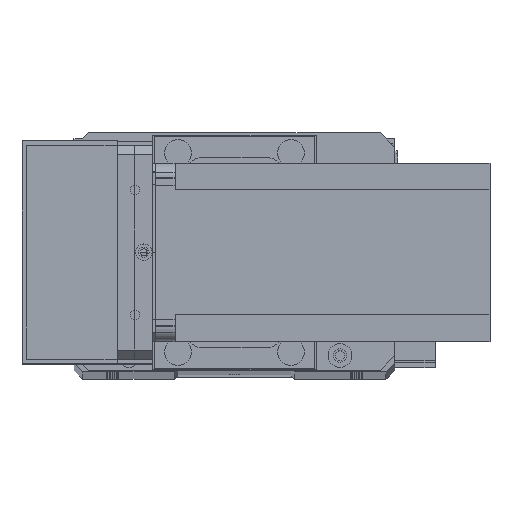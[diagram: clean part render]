
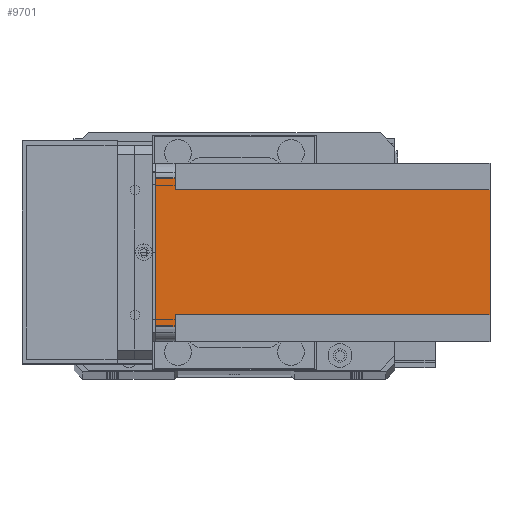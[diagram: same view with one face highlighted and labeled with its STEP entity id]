
A CAD part, top view. The second image highlights one B-rep face of the part: STEP entity #9701.
In plain terms, the highlighted planar face has unit normal (0, 0, 1) as drawn and (1, 0, 0) by its records, which use the part's own axes.
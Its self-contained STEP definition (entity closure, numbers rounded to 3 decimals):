
#236 = DIRECTION ( 'NONE',  ( 0., 0., 1. ) ) ;
#919 = CARTESIAN_POINT ( 'NONE',  ( 60., 0., -112.5 ) ) ;
#2249 = CARTESIAN_POINT ( 'NONE',  ( 60., 60., -6.5 ) ) ;
#2504 = LINE ( 'NONE', #27958, #21221 ) ;
#2930 = FACE_OUTER_BOUND ( 'NONE', #27570, .T. ) ;
#2946 = DIRECTION ( 'NONE',  ( 0., 1., 0. ) ) ;
#3958 = CARTESIAN_POINT ( 'NONE',  ( 60., 0., -6.5 ) ) ;
#4972 = DIRECTION ( 'NONE',  ( 0., 0., -1. ) ) ;
#5358 = VERTEX_POINT ( 'NONE', #17661 ) ;
#5878 = DIRECTION ( 'NONE',  ( 0., 1., 0. ) ) ;
#7004 = EDGE_CURVE ( 'NONE', #13825, #12074, #28877, .T. ) ;
#7236 = EDGE_CURVE ( 'NONE', #12074, #20830, #10768, .T. ) ;
#7821 = ORIENTED_EDGE ( 'NONE', *, *, #22625, .F. ) ;
#8525 = CARTESIAN_POINT ( 'NONE',  ( 60., 55., -6.5 ) ) ;
#8764 = VERTEX_POINT ( 'NONE', #28701 ) ;
#8949 = DIRECTION ( 'NONE',  ( 0., -1., 0. ) ) ;
#9074 = VECTOR ( 'NONE', #4972, 1000. ) ;
#9249 = ORIENTED_EDGE ( 'NONE', *, *, #7236, .F. ) ;
#9701 = ADVANCED_FACE ( 'NONE', ( #2930 ), #18056, .T. ) ;
#9705 = DIRECTION ( 'NONE',  ( 0., -1., 0. ) ) ;
#10183 = CARTESIAN_POINT ( 'NONE',  ( 60., 51., -112.5 ) ) ;
#10453 = EDGE_CURVE ( 'NONE', #13825, #27167, #2504, .T. ) ;
#10535 = AXIS2_PLACEMENT_3D ( 'NONE', #919, #20492, #5878 ) ;
#10691 = ORIENTED_EDGE ( 'NONE', *, *, #16643, .F. ) ;
#10768 = LINE ( 'NONE', #3958, #22879 ) ;
#10916 = CARTESIAN_POINT ( 'NONE',  ( 60., 9., -6.5 ) ) ;
#11164 = VECTOR ( 'NONE', #9705, 1000. ) ;
#11320 = ORIENTED_EDGE ( 'NONE', *, *, #20307, .F. ) ;
#12074 = VERTEX_POINT ( 'NONE', #10916 ) ;
#12466 = EDGE_CURVE ( 'NONE', #8764, #20830, #14800, .T. ) ;
#12782 = CARTESIAN_POINT ( 'NONE',  ( 60., 0., 0. ) ) ;
#12843 = CARTESIAN_POINT ( 'NONE',  ( 60., 9., -112.5 ) ) ;
#13232 = VECTOR ( 'NONE', #2946, 1000. ) ;
#13811 = VERTEX_POINT ( 'NONE', #8525 ) ;
#13825 = VERTEX_POINT ( 'NONE', #27832 ) ;
#14800 = LINE ( 'NONE', #21994, #9074 ) ;
#16643 = EDGE_CURVE ( 'NONE', #25213, #27167, #23634, .T. ) ;
#17224 = VECTOR ( 'NONE', #27036, 1000. ) ;
#17661 = CARTESIAN_POINT ( 'NONE',  ( 60., 55., 0. ) ) ;
#18056 = PLANE ( 'NONE',  #10535 ) ;
#18088 = VECTOR ( 'NONE', #236, 1000. ) ;
#20307 = EDGE_CURVE ( 'NONE', #8764, #5358, #27503, .T. ) ;
#20492 = DIRECTION ( 'NONE',  ( 1., 0., 0. ) ) ;
#20773 = EDGE_CURVE ( 'NONE', #13811, #5358, #30844, .T. ) ;
#20830 = VERTEX_POINT ( 'NONE', #24729 ) ;
#21221 = VECTOR ( 'NONE', #25545, 1000. ) ;
#21994 = CARTESIAN_POINT ( 'NONE',  ( 60., 5., -112.5 ) ) ;
#22234 = CARTESIAN_POINT ( 'NONE',  ( 60., 55., -112.5 ) ) ;
#22625 = EDGE_CURVE ( 'NONE', #13811, #25213, #31122, .T. ) ;
#22879 = VECTOR ( 'NONE', #8949, 1000. ) ;
#23634 = LINE ( 'NONE', #10183, #17224 ) ;
#24729 = CARTESIAN_POINT ( 'NONE',  ( 60., 5., -6.5 ) ) ;
#25213 = VERTEX_POINT ( 'NONE', #29170 ) ;
#25545 = DIRECTION ( 'NONE',  ( 0., 1., 0. ) ) ;
#25888 = ORIENTED_EDGE ( 'NONE', *, *, #10453, .T. ) ;
#26412 = ORIENTED_EDGE ( 'NONE', *, *, #20773, .T. ) ;
#27036 = DIRECTION ( 'NONE',  ( 0., 0., -1. ) ) ;
#27167 = VERTEX_POINT ( 'NONE', #27579 ) ;
#27503 = LINE ( 'NONE', #12782, #13232 ) ;
#27570 = EDGE_LOOP ( 'NONE', ( #7821, #26412, #11320, #30656, #9249, #28857, #25888, #10691 ) ) ;
#27579 = CARTESIAN_POINT ( 'NONE',  ( 60., 51., -112.5 ) ) ;
#27832 = CARTESIAN_POINT ( 'NONE',  ( 60., 9., -112.5 ) ) ;
#27958 = CARTESIAN_POINT ( 'NONE',  ( 60., 0., -112.5 ) ) ;
#28101 = VECTOR ( 'NONE', #29654, 1000. ) ;
#28701 = CARTESIAN_POINT ( 'NONE',  ( 60., 5., 0. ) ) ;
#28857 = ORIENTED_EDGE ( 'NONE', *, *, #7004, .F. ) ;
#28877 = LINE ( 'NONE', #12843, #28101 ) ;
#29170 = CARTESIAN_POINT ( 'NONE',  ( 60., 51., -6.5 ) ) ;
#29654 = DIRECTION ( 'NONE',  ( 0., 0., 1. ) ) ;
#30656 = ORIENTED_EDGE ( 'NONE', *, *, #12466, .T. ) ;
#30844 = LINE ( 'NONE', #22234, #18088 ) ;
#31122 = LINE ( 'NONE', #2249, #11164 ) ;
